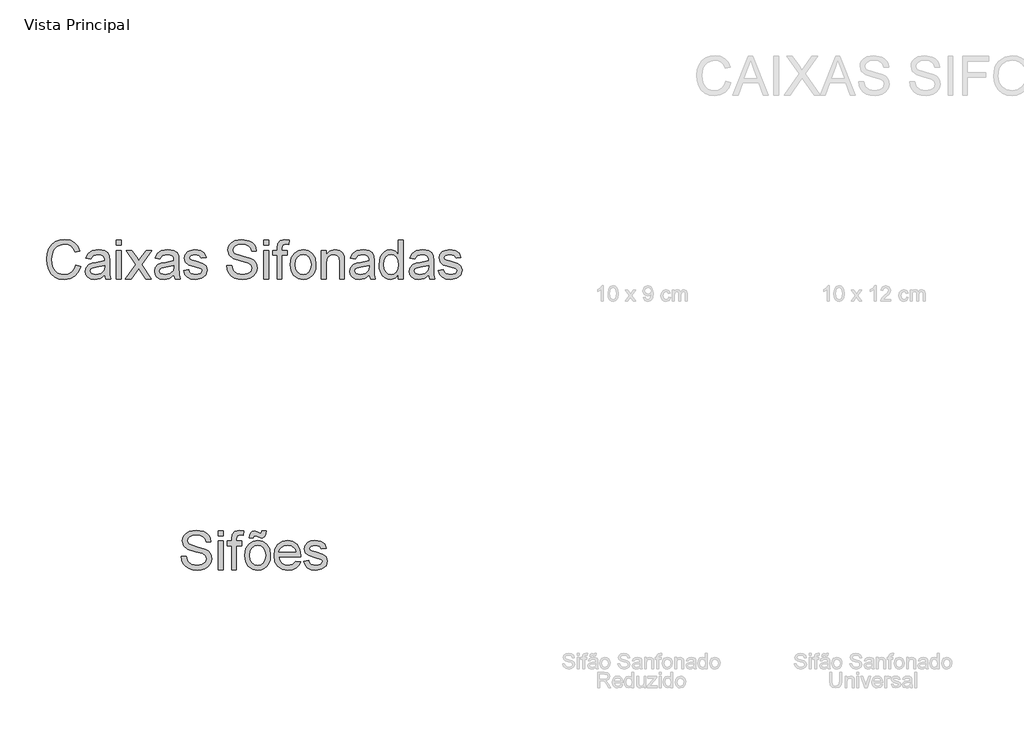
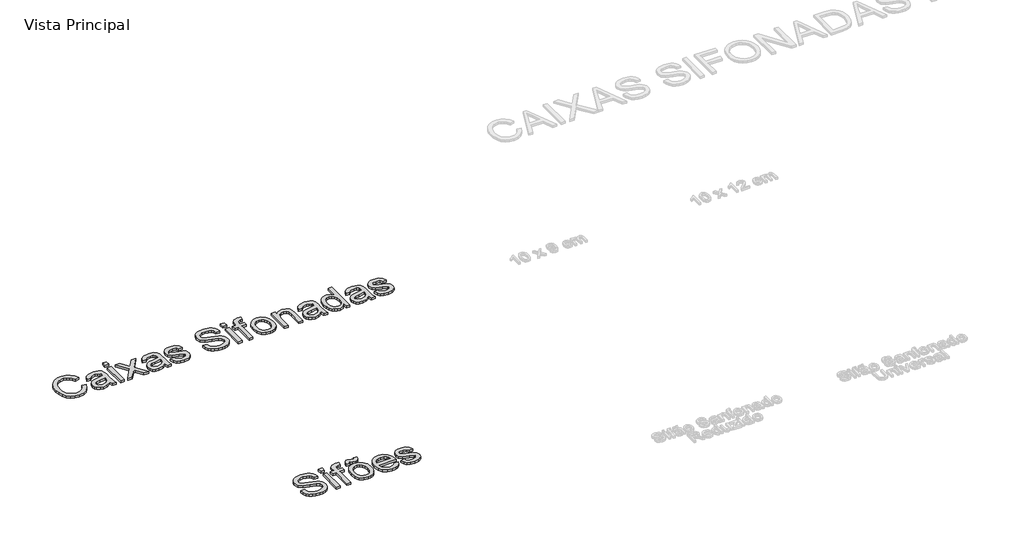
# One storey, part 1 of 5: 2 proxies.
"""IFC4 building model written with IfcOpenShell, lengths in millimetres."""

from ifc_helpers import new_model, si_unit, origin, origin_with_axes, place, context, project, spatial, polyline, outline, extrude, element, save

model = new_model("IFC4")

# Units and contexts
model_context = context("Model", 3, world=origin())
ifc_project = project(units=[si_unit("LENGTHUNIT", "METRE", prefix="MILLI")], contexts=[model_context])

# Site, building, storey
site = spatial("IfcSite", under=ifc_project)
building = spatial("IfcBuilding", under=site)
storey = spatial("IfcBuildingStorey", under=building, Name="Vista Principal", Elevation=0.0)

# Proxies
placement = place(None, origin())
element("IfcBuildingElementProxy", 1, Name="Subtextos", ObjectType="Subtextos", at=placement, inside=storey, context=model_context, shape_type="SweptSolid", body=[
    extrude(outline(polyline([(-3774.3335271, -271.1984887), (-3755.4979689, -276.0545311), (-3764.1891811, -298.0032906), (-3777.828406, -314.0383471), (-3795.7442592, -323.8470008), (-3817.2653559, -327.116552), (-3839.1129479, -324.6425456), (-3856.4631825, -317.2205263), (-3869.7621166, -305.1080116), (-3879.4558072, -288.5625189), (-3885.3741088, -269.1107584), (-3887.346876, -248.2794404), (-3885.1165914, -226.3076883), (-3878.4257376, -207.3341744), (-3867.6238025, -191.9613055), (-3853.060274, -180.7914884), (-3835.7882144, -173.99027), (-3816.8606857, -171.7231972), (-3796.2087102, -174.6570562), (-3779.1343871, -183.4586329), (-3766.1711453, -197.5853015), (-3757.8524137, -216.4944361), (-3776.6879719, -220.9825964), (-3783.2178773, -207.2468024), (-3792.1390156, -197.8244248), (-3803.5617516, -192.3751727), (-3817.5964497, -190.5587554), (-3833.7740605, -192.5729093), (-3847.0637975, -198.6153711), (-3857.1483627, -208.0515443), (-3863.7104578, -220.2468324), (-3868.5113178, -248.2426522), (-3867.0903736, -265.6434706), (-3862.827541, -280.6898442), (-3855.5618716, -292.8069574), (-3845.1324171, -301.4199946), (-3832.6290277, -306.565744), (-3819.1415541, -308.2809938), (-3803.4191973, -305.9449432), (-3790.3179998, -298.9367912), (-3780.4265726, -287.3301142), (-3774.3335271, -271.1984887)])), origin_with_axes(), (0.0, 0.0, 1.0), 10.0),
    extrude(outline(polyline([(-3661.3201782, -310.6354386), (-3679.5855192, -323.4009439), (-3699.7638467, -327.116552), (-3715.5045975, -324.8816689), (-3727.115873, -318.1770195), (-3734.2757763, -307.9958853), (-3736.6624108, -295.3315476), (-3733.0571672, -280.4323268), (-3723.5842058, -269.6165962), (-3710.3956363, -263.4361786), (-3694.0984639, -260.6034873), (-3661.4305428, -254.1287642), (-3661.3201782, -249.9349094), (-3662.6169622, -241.5288058), (-3666.5073143, -236.02897), (-3675.2077235, -231.9454798), (-3687.3294352, -230.5843165), (-3706.3857226, -234.2079541), (-3715.4724079, -247.0654299), (-3734.307966, -244.7109851), (-3726.1593798, -226.3168853), (-3709.7518428, -215.5379429), (-3684.9014141, -211.7487583), (-3662.0743363, -215.0964845), (-3649.1800723, -223.5025881), (-3643.404325, -236.2864874), (-3642.48462, -252.7676008), (-3642.48462, -276.2016839), (-3641.5281268, -308.9247873), (-3637.7757305, -324.7621072), (-3656.6112886, -324.7621072), (-3661.3201782, -310.6354386)]), holes=[polyline([(-3661.3201782, -272.9643223), (-3691.707231, -278.7400696), (-3707.9124329, -281.7934902), (-3715.2516787, -286.7598971), (-3717.8268526, -294.0071724), (-3712.2166522, -304.1975037), (-3695.7539329, -308.2809938), (-3676.6976456, -303.7744394), (-3664.4103869, -292.8667383), (-3661.4305428, -278.2986112), (-3661.3201782, -272.9643223)])]), origin_with_axes(), (0.0, 0.0, 1.0), 10.0),
    extrude(outline(polyline([(-3616.5857275, -192.9132002), (-3616.5857275, -174.077642), (-3597.7501694, -174.077642), (-3597.7501694, -192.9132002), (-3616.5857275, -192.9132002)])), origin_with_axes(), (0.0, 0.0, 1.0), 10.0),
    extrude(outline(polyline([(-3616.5857275, -324.7621072), (-3616.5857275, -214.1032031), (-3597.7501694, -214.1032031), (-3597.7501694, -324.7621072), (-3616.5857275, -324.7621072)])), origin_with_axes(), (0.0, 0.0, 1.0), 10.0),
    extrude(outline(polyline([(-3581.269056, -324.7621072), (-3541.0227657, -269.1383496), (-3578.9146112, -214.1032031), (-3556.2530803, -214.1032031), (-3537.9693452, -240.5907067), (-3529.4344829, -253.0986946), (-3522.0400548, -242.8715751), (-3501.2179339, -214.1032031), (-3478.556403, -214.1032031), (-3518.3612348, -269.1383496), (-3480.0279309, -324.7621072), (-3502.6894618, -324.7621072), (-3525.7556629, -291.3216339), (-3529.9863059, -285.2147928), (-3558.6075251, -324.7621072), (-3581.269056, -324.7621072)])), origin_with_axes(), (0.0, 0.0, 1.0), 10.0),
    extrude(outline(polyline([(-3392.9134745, -310.6354386), (-3411.1788155, -323.4009439), (-3431.357143, -327.116552), (-3447.0978938, -324.8816689), (-3458.7091693, -318.1770195), (-3465.8690727, -307.9958853), (-3468.2557071, -295.3315476), (-3464.6504635, -280.4323268), (-3455.1775022, -269.6165962), (-3441.9889326, -263.4361786), (-3425.6917603, -260.6034873), (-3393.0238391, -254.1287642), (-3392.9134745, -249.9349094), (-3394.2102585, -241.5288058), (-3398.1006106, -236.02897), (-3406.8010198, -231.9454798), (-3418.9227315, -230.5843165), (-3437.9790189, -234.2079541), (-3447.0657042, -247.0654299), (-3465.9012623, -244.7109851), (-3457.7526761, -226.3168853), (-3441.3451391, -215.5379429), (-3416.4947104, -211.7487583), (-3393.6676326, -215.0964845), (-3380.7733686, -223.5025881), (-3374.9976213, -236.2864874), (-3374.0779163, -252.7676008), (-3374.0779163, -276.2016839), (-3373.1214231, -308.9247873), (-3369.3690268, -324.7621072), (-3388.2045849, -324.7621072), (-3392.9134745, -310.6354386)]), holes=[polyline([(-3392.9134745, -272.9643223), (-3423.3005273, -278.7400696), (-3439.5057292, -281.7934902), (-3446.844975, -286.7598971), (-3449.4201489, -294.0071724), (-3443.8099485, -304.1975037), (-3427.3472292, -308.2809938), (-3408.2909419, -303.7744394), (-3396.0036832, -292.8667383), (-3393.0238391, -278.2986112), (-3392.9134745, -272.9643223)])]), origin_with_axes(), (0.0, 0.0, 1.0), 10.0),
    extrude(outline(polyline([(-3355.2423582, -291.7998805), (-3336.4068, -289.4454357), (-3333.4361529, -297.5020514), (-3327.6879967, -303.4249515), (-3307.7120044, -308.2809938), (-3288.5085643, -303.8296217), (-3282.2545703, -293.381773), (-3283.8272659, -288.580913), (-3288.5453525, -284.9204872), (-3307.9327336, -279.54941), (-3336.2964354, -270.333966), (-3348.6756646, -259.5734177), (-3352.8879134, -244.3798913), (-3349.5033991, -230.3451932), (-3340.269561, -219.621433), (-3328.295002, -214.0480208), (-3312.0898001, -211.7487583), (-3289.1707518, -215.4459724), (-3274.6026248, -225.4523626), (-3268.1279017, -242.3565403), (-3286.9634599, -244.7109851), (-3294.0451883, -234.3183187), (-3310.6182722, -230.5843165), (-3328.6444899, -234.1527718), (-3334.0523553, -242.4669049), (-3331.8082751, -247.9483466), (-3324.781729, -252.1054132), (-3308.558133, -256.1153269), (-3280.9118011, -264.981283), (-3268.0727194, -275.0244615), (-3263.4190122, -291.3952103), (-3268.8820598, -309.421428), (-3284.6458033, -322.499633), (-3307.9695218, -327.116552), (-3326.9614298, -324.8908659), (-3340.821384, -318.2138077), (-3350.0736161, -307.1589538), (-3355.2423582, -291.7998805)])), origin_with_axes(), (0.0, 0.0, 1.0), 10.0),
    extrude(outline(polyline([(-3188.0767796, -272.9643223), (-3169.2412214, -272.9643223), (-3163.1711685, -291.8182746), (-3148.3455241, -303.7376512), (-3125.7575696, -308.2809938), (-3106.0758828, -304.8412972), (-3093.3655599, -295.3867299), (-3089.1900993, -282.7499834), (-3092.3170962, -270.9961536), (-3105.1193897, -262.4428972), (-3132.5449924, -255.2508042), (-3162.0675225, -245.9617839), (-3178.0887834, -231.9454798), (-3183.36789, -213.2202863), (-3181.7354137, -202.188425), (-3176.8379846, -191.9015247), (-3168.8043615, -183.1827214), (-3157.7633032, -176.8551511), (-3129.8410597, -171.7231972), (-3100.0426181, -177.0942744), (-3088.6198822, -183.7253473), (-3080.1769904, -192.876412), (-3074.8335044, -203.9772512), (-3072.7089859, -216.4576479), (-3091.544544, -216.4576479), (-3095.0026348, -205.2188529), (-3102.2131219, -197.1070549), (-3113.479508, -192.1958303), (-3129.1052957, -190.5587554), (-3145.0989655, -192.1774362), (-3156.071046, -197.0334785), (-3162.4170104, -204.1795863), (-3164.5323319, -212.6684633), (-3163.0332127, -219.9065416), (-3158.5358554, -225.7282741), (-3127.7809206, -236.2496992), (-3094.4508118, -245.7042665), (-3083.7132561, -252.5376745), (-3076.2222589, -260.9713693), (-3071.8214706, -270.9133802), (-3070.3545411, -282.2717368), (-3072.0421998, -293.8830123), (-3077.1051757, -304.804509), (-3085.3365354, -314.203894), (-3096.5293451, -321.2488342), (-3109.9892276, -325.6496225), (-3125.0218056, -327.116552), (-3143.4756862, -325.5346594), (-3158.6646141, -320.7889817), (-3170.7633332, -312.8611247), (-3179.9465875, -301.7326943), (-3185.8418964, -288.1762428), (-3188.0767796, -272.9643223)])), origin_with_axes(), (0.0, 0.0, 1.0), 10.0),
    extrude(outline(polyline([(-3044.4556487, -192.9132002), (-3044.4556487, -174.077642), (-3025.6200905, -174.077642), (-3025.6200905, -192.9132002), (-3044.4556487, -192.9132002)])), origin_with_axes(), (0.0, 0.0, 1.0), 10.0),
    extrude(outline(polyline([(-3044.4556487, -324.7621072), (-3044.4556487, -214.1032031), (-3025.6200905, -214.1032031), (-3025.6200905, -324.7621072), (-3044.4556487, -324.7621072)])), origin_with_axes(), (0.0, 0.0, 1.0), 10.0),
    extrude(outline(polyline([(-2992.6578637, -324.7621072), (-2992.6578637, -232.9387612), (-3009.1389771, -232.9387612), (-3009.1389771, -214.1032031), (-2992.6578637, -214.1032031), (-2992.6578637, -202.9563786), (-2990.671301, -187.2478174), (-2981.0327927, -176.0274166), (-2962.0500817, -171.7231972), (-2944.8699926, -173.7833364), (-2947.6291075, -191.4416722), (-2958.4816264, -190.5587554), (-2970.3458207, -193.6857524), (-2973.8223056, -205.3476116), (-2973.8223056, -214.1032031), (-2952.6323027, -214.1032031), (-2952.6323027, -232.9387612), (-2973.8223056, -232.9387612), (-2973.8223056, -324.7621072), (-2992.6578637, -324.7621072)])), origin_with_axes(), (0.0, 0.0, 1.0), 10.0),
    extrude(outline(polyline([(-2940.8600788, -269.4326552), (-2936.7857857, -242.7520135), (-2924.5629064, -223.9992288), (-2909.4613505, -214.8113759), (-2891.3799505, -211.7487583), (-2871.5924976, -215.478162), (-2855.7873674, -226.6663732), (-2845.4268907, -244.4304751), (-2841.9733985, -267.8875508), (-2843.5001088, -286.916247), (-2848.0802396, -301.4016005), (-2855.5804338, -312.2495209), (-2865.8673341, -320.3659174), (-2878.0856149, -325.4288933), (-2891.3799505, -327.116552), (-2911.4065266, -323.4009439), (-2927.1932627, -312.2541194), (-2937.4433748, -294.117537), (-2940.8600788, -269.4326552)]), holes=[polyline([(-2922.0245207, -269.395867), (-2919.8448198, -286.4425989), (-2913.3057174, -298.5873033), (-2903.464874, -305.8575712), (-2891.3799505, -308.2809938), (-2879.3502092, -305.8437756), (-2869.5277599, -298.532121), (-2862.9886575, -286.2264682), (-2860.8089567, -268.8072558), (-2863.0024531, -252.2571645), (-2869.5829422, -240.278007), (-2879.4191871, -233.0077391), (-2891.3799505, -230.5843165), (-2903.464874, -232.9985421), (-2913.3057174, -240.2412188), (-2919.8448198, -252.3583321), (-2922.0245207, -269.395867)])]), origin_with_axes(), (0.0, 0.0, 1.0), 10.0),
    extrude(outline(polyline([(-2820.7833956, -324.7621072), (-2820.7833956, -214.1032031), (-2801.9478374, -214.1032031), (-2801.9478374, -229.5542469), (-2787.5452573, -216.2001305), (-2767.8819647, -211.7487583), (-2750.0948702, -215.3356078), (-2737.9547644, -224.7533868), (-2732.3077757, -238.604144), (-2731.3144944, -256.8143027), (-2731.3144944, -324.7621072), (-2750.1500525, -324.7621072), (-2750.1500525, -259.3526885), (-2752.3205563, -242.6876341), (-2759.9908959, -233.8768603), (-2772.921948, -230.5843165), (-2783.9538093, -232.4329235), (-2793.3577928, -237.9787446), (-2799.8003263, -248.6933077), (-2801.9478374, -266.0481408), (-2801.9478374, -324.7621072), (-2820.7833956, -324.7621072)])), origin_with_axes(), (0.0, 0.0, 1.0), 10.0),
    extrude(outline(polyline([(-2634.7822588, -310.6354386), (-2653.0475999, -323.4009439), (-2673.2259273, -327.116552), (-2688.9666782, -324.8816689), (-2700.5779537, -318.1770195), (-2707.737857, -307.9958853), (-2710.1244914, -295.3315476), (-2706.5192479, -280.4323268), (-2697.0462865, -269.6165962), (-2683.857717, -263.4361786), (-2667.5605446, -260.6034873), (-2634.8926234, -254.1287642), (-2634.7822588, -249.9349094), (-2636.0790429, -241.5288058), (-2639.969395, -236.02897), (-2648.6698041, -231.9454798), (-2660.7915159, -230.5843165), (-2679.8478032, -234.2079541), (-2688.9344885, -247.0654299), (-2707.7700467, -244.7109851), (-2699.6214605, -226.3168853), (-2683.2139235, -215.5379429), (-2658.3634947, -211.7487583), (-2635.5364169, -215.0964845), (-2622.642153, -223.5025881), (-2616.8664057, -236.2864874), (-2615.9467007, -252.7676008), (-2615.9467007, -276.2016839), (-2614.9902075, -308.9247873), (-2611.2378111, -324.7621072), (-2630.0733693, -324.7621072), (-2634.7822588, -310.6354386)]), holes=[polyline([(-2634.7822588, -272.9643223), (-2665.1693116, -278.7400696), (-2681.3745135, -281.7934902), (-2688.7137593, -286.7598971), (-2691.2889333, -294.0071724), (-2685.6787329, -304.1975037), (-2669.2160136, -308.2809938), (-2650.1597262, -303.7744394), (-2637.8724676, -292.8667383), (-2634.8926234, -278.2986112), (-2634.7822588, -272.9643223)])]), origin_with_axes(), (0.0, 0.0, 1.0), 10.0),
    extrude(outline(polyline([(-2521.7689099, -324.7621072), (-2521.7689099, -306.9934069), (-2534.2309125, -322.0857657), (-2551.4569869, -327.116552), (-2563.633881, -325.2955361), (-2574.7807054, -319.8324885), (-2584.2168786, -311.1090867), (-2591.2618188, -299.5070083), (-2595.6488116, -285.4953028), (-2597.1111425, -269.5430198), (-2591.7216713, -239.5606371), (-2584.9894308, -227.6688517), (-2575.5716517, -218.9224572), (-2564.1811054, -213.542183), (-2551.5305633, -211.7487583), (-2534.1665331, -216.8807121), (-2521.7689099, -230.2164345), (-2521.7689099, -174.077642), (-2502.9333518, -174.077642), (-2502.9333518, -324.7621072), (-2521.7689099, -324.7621072)]), holes=[polyline([(-2578.2755844, -269.4694434), (-2576.1510658, -286.5069783), (-2569.7775103, -298.6240915), (-2560.516081, -305.8667683), (-2549.7279415, -308.2809938), (-2538.9444006, -305.9771329), (-2529.9174961, -299.0655499), (-2523.8060565, -287.4174862), (-2521.7689099, -270.9041831), (-2523.8428447, -252.8503742), (-2530.0646489, -240.3331893), (-2539.3214796, -233.0215347), (-2550.5004937, -230.5843165), (-2561.3989978, -232.9249657), (-2570.3293333, -239.9469132), (-2576.2890216, -252.0088442), (-2578.2755844, -269.4694434)])]), origin_with_axes(), (0.0, 0.0, 1.0), 10.0),
    extrude(outline(polyline([(-2404.0466714, -310.6354386), (-2422.3120125, -323.4009439), (-2442.4903399, -327.116552), (-2458.2310908, -324.8816689), (-2469.8423663, -318.1770195), (-2477.0022696, -307.9958853), (-2479.3889041, -295.3315476), (-2475.7836605, -280.4323268), (-2466.3106991, -269.6165962), (-2453.1221296, -263.4361786), (-2436.8249572, -260.6034873), (-2404.157036, -254.1287642), (-2404.0466714, -249.9349094), (-2405.3434555, -241.5288058), (-2409.2338076, -236.02897), (-2417.9342168, -231.9454798), (-2430.0559285, -230.5843165), (-2449.1122159, -234.2079541), (-2458.1989011, -247.0654299), (-2477.0344593, -244.7109851), (-2468.8858731, -226.3168853), (-2452.4783361, -215.5379429), (-2427.6279073, -211.7487583), (-2404.8008295, -215.0964845), (-2391.9065656, -223.5025881), (-2386.1308183, -236.2864874), (-2385.2111133, -252.7676008), (-2385.2111133, -276.2016839), (-2384.2546201, -308.9247873), (-2380.5022238, -324.7621072), (-2399.3377819, -324.7621072), (-2404.0466714, -310.6354386)]), holes=[polyline([(-2404.0466714, -272.9643223), (-2434.4337242, -278.7400696), (-2450.6389261, -281.7934902), (-2457.9781719, -286.7598971), (-2460.5533459, -294.0071724), (-2454.9431455, -304.1975037), (-2438.4804262, -308.2809938), (-2419.4241388, -303.7744394), (-2407.1368802, -292.8667383), (-2404.157036, -278.2986112), (-2404.0466714, -272.9643223)])]), origin_with_axes(), (0.0, 0.0, 1.0), 10.0),
    extrude(outline(polyline([(-2366.3755551, -291.7998805), (-2347.539997, -289.4454357), (-2344.5693499, -297.5020514), (-2338.8211937, -303.4249515), (-2318.8452014, -308.2809938), (-2299.6417612, -303.8296217), (-2293.3877673, -293.381773), (-2294.9604628, -288.580913), (-2299.6785494, -284.9204872), (-2319.0659306, -279.54941), (-2347.4296324, -270.333966), (-2359.8088615, -259.5734177), (-2364.0211104, -244.3798913), (-2360.636596, -230.3451932), (-2351.4027579, -219.621433), (-2339.428199, -214.0480208), (-2323.2229971, -211.7487583), (-2300.3039488, -215.4459724), (-2285.7358218, -225.4523626), (-2279.2610987, -242.3565403), (-2298.0966568, -244.7109851), (-2305.1783852, -234.3183187), (-2321.7514691, -230.5843165), (-2339.7776869, -234.1527718), (-2345.1855522, -242.4669049), (-2342.941472, -247.9483466), (-2335.9149259, -252.1054132), (-2319.69133, -256.1153269), (-2292.044998, -264.981283), (-2279.2059164, -275.0244615), (-2274.5522091, -291.3952103), (-2280.0152568, -309.421428), (-2295.7790003, -322.499633), (-2319.1027188, -327.116552), (-2338.0946268, -324.8908659), (-2351.9545809, -318.2138077), (-2361.2068131, -307.1589538), (-2366.3755551, -291.7998805)])), origin_with_axes(), (0.0, 0.0, 1.0), 10.0),
])
element("IfcBuildingElementProxy", 2, Name="Subtextos", ObjectType="Subtextos", at=placement, inside=storey, context=model_context, shape_type="SweptSolid", body=[
    extrude(outline(polyline([(-3364.6601373, -1402.0525168), (-3345.8245791, -1402.0525168), (-3339.7545262, -1420.9064691), (-3324.9288818, -1432.8258457), (-3302.3409273, -1437.3691884), (-3282.6592405, -1433.9294917), (-3269.9489176, -1424.4749244), (-3265.7734569, -1411.8381779), (-3268.9004539, -1400.0843482), (-3281.7027473, -1391.5310918), (-3309.1283501, -1384.3389988), (-3338.6508802, -1375.0499784), (-3354.6721411, -1361.0336744), (-3359.9512477, -1342.3084808), (-3358.3187714, -1331.2766195), (-3353.4213423, -1320.9897192), (-3345.3877192, -1312.2709159), (-3334.3466608, -1305.9433456), (-3306.4244174, -1300.8113918), (-3276.6259758, -1306.1824689), (-3265.2032399, -1312.8135419), (-3256.7603481, -1321.9646065), (-3251.4168621, -1333.0654457), (-3249.2923436, -1345.5458424), (-3268.1279017, -1345.5458424), (-3271.5859925, -1334.3070474), (-3278.7964796, -1326.1952494), (-3290.0628657, -1321.2840248), (-3305.6886534, -1319.6469499), (-3321.6823232, -1321.2656307), (-3332.6544037, -1326.121673), (-3339.0003681, -1333.2677808), (-3341.1156896, -1341.7566578), (-3339.6165704, -1348.9947361), (-3335.119213, -1354.8164687), (-3304.3642782, -1365.3378937), (-3271.0341695, -1374.792461), (-3260.2966137, -1381.6258691), (-3252.8056166, -1390.0595638), (-3248.4048283, -1400.0015747), (-3246.9378988, -1411.3599313), (-3248.6255574, -1422.9712068), (-3253.6885334, -1433.8927035), (-3261.919893, -1443.2920885), (-3273.1127028, -1450.3370287), (-3286.5725853, -1454.7378171), (-3301.6051633, -1456.2047465), (-3320.0590439, -1454.6228539), (-3335.2479717, -1449.8771762), (-3347.3466909, -1441.9493192), (-3356.5299452, -1430.8208889), (-3362.4252541, -1417.2644373), (-3364.6601373, -1402.0525168)])), origin_with_axes(), (0.0, 0.0, 1.0), 10.0),
    extrude(outline(polyline([(-3221.0390063, -1453.8503018), (-3221.0390063, -1343.1913976), (-3202.2034482, -1343.1913976), (-3202.2034482, -1453.8503018), (-3221.0390063, -1453.8503018)])), origin_with_axes(), (0.0, 0.0, 1.0), 10.0),
    extrude(outline(polyline([(-3221.0390063, -1322.0013947), (-3221.0390063, -1303.1658365), (-3202.2034482, -1303.1658365), (-3202.2034482, -1322.0013947), (-3221.0390063, -1322.0013947)])), origin_with_axes(), (0.0, 0.0, 1.0), 10.0),
    extrude(outline(polyline([(-3169.2412214, -1453.8503018), (-3169.2412214, -1362.0269558), (-3185.7223348, -1362.0269558), (-3185.7223348, -1343.1913976), (-3169.2412214, -1343.1913976), (-3169.2412214, -1332.0445732), (-3167.2546586, -1316.336012), (-3157.6161504, -1305.1156111), (-3138.6334394, -1300.8113918), (-3121.4533502, -1302.8715309), (-3124.2124652, -1320.5298667), (-3135.0649841, -1319.6469499), (-3146.9291784, -1322.7739469), (-3150.4056633, -1334.4358061), (-3150.4056633, -1343.1913976), (-3129.2156603, -1343.1913976), (-3129.2156603, -1362.0269558), (-3150.4056633, -1362.0269558), (-3150.4056633, -1453.8503018), (-3169.2412214, -1453.8503018)])), origin_with_axes(), (0.0, 0.0, 1.0), 10.0),
    extrude(outline(polyline([(-3117.4434365, -1398.5208497), (-3113.3691434, -1371.840208), (-3101.1462641, -1353.0874233), (-3086.0447082, -1343.8995705), (-3067.9633081, -1340.8369528), (-3048.1758553, -1344.5663566), (-3032.3707251, -1355.7545677), (-3022.0102484, -1373.5186696), (-3018.5567562, -1396.9757453), (-3020.0834665, -1416.0044415), (-3024.6635973, -1430.4897951), (-3032.1637915, -1441.3377154), (-3042.4506918, -1449.4541119), (-3054.6689725, -1454.5170879), (-3067.9633081, -1456.2047465), (-3087.9898843, -1452.4891384), (-3103.7766204, -1441.3423139), (-3114.0267325, -1423.2057316), (-3117.4434365, -1398.5208497)]), holes=[polyline([(-3098.6078783, -1398.4840615), (-3096.4281775, -1415.5307934), (-3089.8890751, -1427.6754978), (-3080.0482317, -1434.9457657), (-3067.9633081, -1437.3691884), (-3055.9335669, -1434.9319702), (-3046.1111176, -1427.6203155), (-3039.5720152, -1415.3146628), (-3037.3923143, -1397.8954503), (-3039.5858107, -1381.345359), (-3046.1662999, -1369.3662016), (-3056.0025448, -1362.0959336), (-3067.9633081, -1359.672511), (-3080.0482317, -1362.0867366), (-3089.8890751, -1369.3294134), (-3096.4281775, -1381.4465266), (-3098.6078783, -1398.4840615)])]), origin_with_axes(), (0.0, 0.0, 1.0), 10.0),
    extrude(outline(polyline([(-3100.9623231, -1331.4191738), (-3099.5367804, -1319.840088), (-3095.1129994, -1310.8545702), (-3088.4451382, -1305.08802), (-3080.1402022, -1303.1658365), (-3065.0570404, -1309.2358895), (-3057.4418831, -1312.5836156), (-3053.4503634, -1310.6890233), (-3051.518983, -1303.1658365), (-3035.0378696, -1303.1658365), (-3036.679543, -1315.5266716), (-3041.015952, -1324.3558395), (-3047.4676825, -1329.6533402), (-3055.4553203, -1331.4191738), (-3070.3545411, -1325.6802146), (-3078.3007922, -1322.0013947), (-3082.7889525, -1324.3926277), (-3084.4812097, -1331.4191738), (-3100.9623231, -1331.4191738)])), origin_with_axes(), (0.0, 0.0, 1.0), 10.0),
    extrude(outline(polyline([(-2919.8908051, -1420.888075), (-2901.4231289, -1423.2425198), (-2908.0771945, -1437.1576562), (-2918.6951886, -1447.5595196), (-2933.0379879, -1454.0434398), (-2950.8664691, -1456.2047465), (-2972.9669799, -1452.4753428), (-2989.9723252, -1441.2871316), (-3000.815647, -1423.3666799), (-3004.4300876, -1399.4405547), (-3000.7788588, -1374.7096875), (-2989.8251724, -1356.2144202), (-2973.0497534, -1344.6813197), (-2951.9333269, -1340.8369528), (-2931.4744894, -1344.6721226), (-2915.1267332, -1356.177632), (-2904.4075716, -1374.6361111), (-2900.8345177, -1399.3301901), (-2900.9448823, -1404.4069616), (-2985.5945294, -1404.4069616), (-2982.3341752, -1418.5060391), (-2974.7604047, -1428.8711143), (-2963.8297109, -1435.2446699), (-2950.4985871, -1437.3691884), (-2932.0309109, -1433.432851), (-2919.8908051, -1420.888075)]), holes=[polyline([(-2985.5945294, -1385.5714035), (-2919.6700759, -1385.5714035), (-2922.2176587, -1375.6201955), (-2927.2116568, -1368.5016789), (-2938.1929343, -1361.879803), (-2952.0069033, -1359.672511), (-2964.7034306, -1361.433746), (-2975.2018631, -1366.7174512), (-2982.4997221, -1374.9534094), (-2985.5945294, -1385.5714035)])]), origin_with_axes(), (0.0, 0.0, 1.0), 10.0),
    extrude(outline(polyline([(-2889.0622939, -1420.888075), (-2870.2267357, -1418.5336302), (-2867.2560886, -1426.5902459), (-2861.5079324, -1432.513146), (-2841.5319401, -1437.3691884), (-2822.3285, -1432.9178162), (-2816.074506, -1422.4699676), (-2817.6472016, -1417.6691075), (-2822.3652882, -1414.0086817), (-2841.7526693, -1408.6376046), (-2870.1163711, -1399.4221606), (-2882.4956003, -1388.6616122), (-2886.7078491, -1373.4680858), (-2883.3233348, -1359.4333877), (-2874.0894967, -1348.7096275), (-2862.1149377, -1343.1362153), (-2845.9097359, -1340.8369528), (-2822.9906876, -1344.5341669), (-2808.4225605, -1354.5405572), (-2801.9478374, -1371.4447348), (-2820.7833956, -1373.7991796), (-2827.865124, -1363.4065132), (-2844.4382079, -1359.672511), (-2862.4644256, -1363.2409663), (-2867.872291, -1371.5550994), (-2865.6282108, -1377.0365412), (-2858.6016647, -1381.1936077), (-2842.3780687, -1385.2035215), (-2814.7317368, -1394.0694775), (-2801.8926551, -1404.112656), (-2797.2389479, -1420.4834048), (-2802.7019955, -1438.5096226), (-2818.465739, -1451.5878275), (-2841.7894575, -1456.2047465), (-2860.7813655, -1453.9790605), (-2874.6413197, -1447.3020022), (-2883.8935519, -1436.2471483), (-2889.0622939, -1420.888075)])), origin_with_axes(), (0.0, 0.0, 1.0), 10.0),
])

save(model, "model.ifc")
